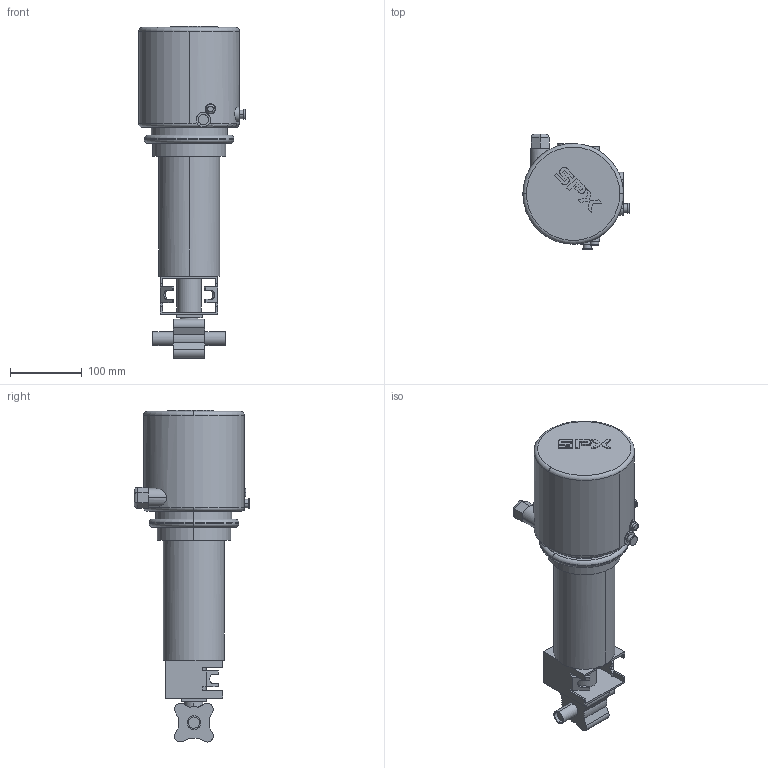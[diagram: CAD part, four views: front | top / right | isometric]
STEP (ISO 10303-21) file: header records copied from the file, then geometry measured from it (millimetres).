
FILE_DESCRIPTION(('Creo Elements/Direct Modeling STEP Export'),'2;1');
FILE_NAME('BLV1-0.75T-NC-12S-CU4.stp','2019-05-10T 7:56:18',(''),(''),'Creo Elements/Direct Modeling STEP processor for AP214 (Solid Model)','Creo Elements/Direct Modeling 19.0F 14-Feb-2017 (C) Parametric Technology GmbH','');
FILE_SCHEMA(('AUTOMOTIVE_DESIGN { 1 0 10303 214 1 1 1 1 }'));
Length unit declared in the file: millimetre
Products named in the file (2): BLV1-0.75T-NC-12S-CU4
Assembly tree (1 placements, depth 2):
  BLV1-0.75T-NC-12S-CU4
    BLV1-0.75T-NC-12S-CU4
Bounding box: 148 x 161.4 x 462.43 mm (x, y, z)
Volume: 3683203.5 mm3; surface area: 222743.6 mm2
Topology: 1 solids, 1 shells, 228 faces, 582 edges, 379 vertices
Faces by surface type: cylinder 110, plane 104, torus 10, extrusion 4
Entity records: 9938 total; most frequent: CARTESIAN_POINT 4511, ORIENTED_EDGE 1166, DIRECTION 1040, EDGE_CURVE 583, AXIS2_PLACEMENT_3D 379, VERTEX_POINT 379, VECTOR 282, LINE 278
